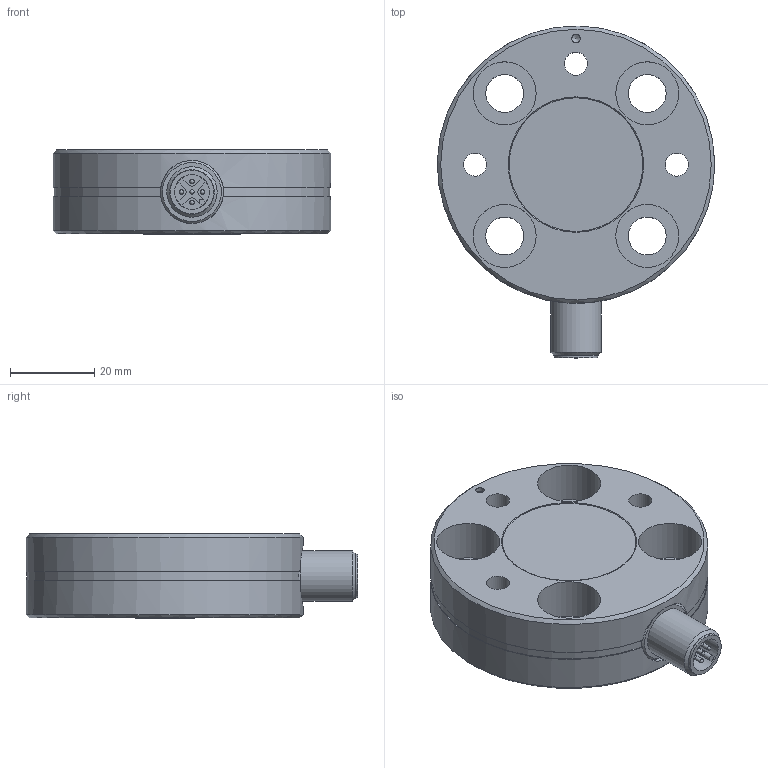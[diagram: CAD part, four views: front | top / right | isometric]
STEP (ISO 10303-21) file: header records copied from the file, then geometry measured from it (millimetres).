
FILE_DESCRIPTION((''),'2;1');
FILE_NAME('K:\Daten\Ptam5-M12R.stp','2013-07-04T13:13:36',('kamp'),(''),'Autodesk Inventor 2008','Autodesk Inventor 2008','');
FILE_SCHEMA(('AUTOMOTIVE_DESIGN { 1 0 10303 214 1 1 1 1 }'));
Length unit declared in the file: millimetre
Products named in the file (1): Bauteil24
Bounding box: 65.99 x 79 x 20.01 mm (x, y, z)
Volume: 57135.1 mm3; surface area: 15630.2 mm2
Topology: 1 solids, 1 shells, 742 faces, 1996 edges, 1326 vertices
Faces by surface type: plane 387, bspline 313, cylinder 32, sphere 5, cone 5
Full cylindrical faces by diameter (mm): 0.923 x1, 1 x5, 1.024 x1, 8.3 x1, 10.4 x1, 12 x1, 15 x1, 31.82 x1, 66 x2
Entity records: 25345 total; most frequent: CARTESIAN_POINT 8158, ORIENTED_EDGE 3886, DIRECTION 2338, EDGE_CURVE 1943, VERTEX_POINT 1319, VECTOR 1244, LINE 1244, EDGE_LOOP 872
